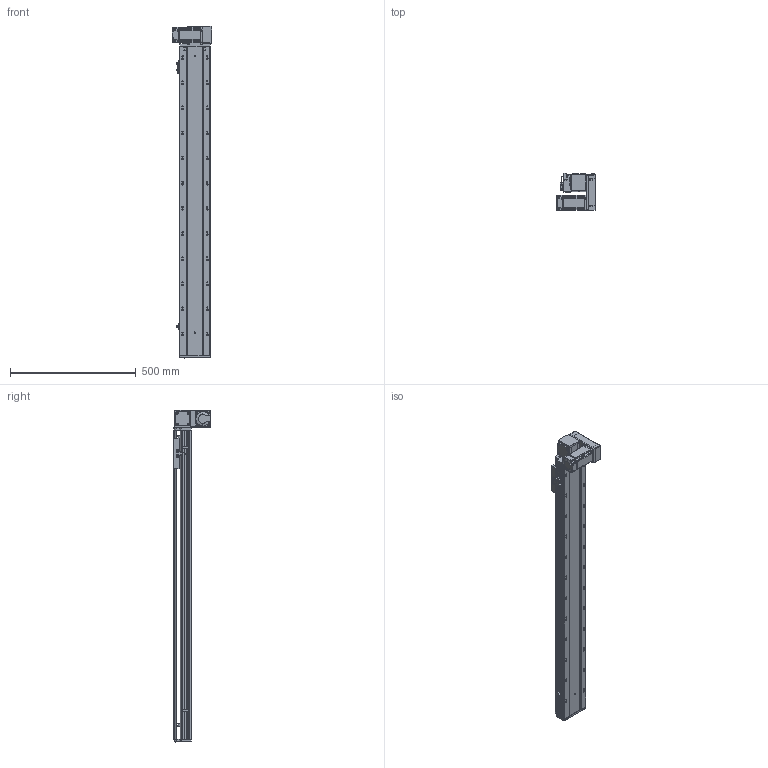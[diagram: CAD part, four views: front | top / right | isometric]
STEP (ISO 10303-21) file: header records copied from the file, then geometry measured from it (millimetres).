
FILE_DESCRIPTION (( 'STEP AP203' ), '1' );
FILE_NAME ('RY120-T-300-DR.SLDASM_1000.step', '2021-03-01T03:35:45', ( '盈信电脑' ), ( '东莞市道滘镇水果街19号' ), 'SwSTEP 2.0', 'SolidWorks 2012', '' );
FILE_SCHEMA (( 'CONFIG_CONTROL_DESIGN' ));
Length unit declared in the file: millimetre
Products named in the file (17): RY120-T-300-DR.SLDASM_1000; RY120-T萇儂欶; RY120-T蹟翐M4; RY120-T主同步轮轴承压盖; RY120-T萇儂假蚾啣; RY120-T翋肮祭謫裔啣; 滅袉蝶18-10; 15; RY120-T肮祭湍揤踡輸2; RY120-T肮祭湍揤踡輸1; RY120外置感应片(140共用）; RY120-T翋肮祭盓傅釱; RY120綴裔啣; RY120-T-300-DR倰第奻裔啣_1000; 覜茼ん672; RY120肮祭湍臏賑輸; RY120-T-300-DR倰第菁釱_1000
Assembly tree (22 placements, depth 2):
  RY120-T-300-DR.SLDASM_1000
    RY120-T-300-DR倰第菁釱_1000
    RY120-T-300-DR倰第奻裔啣_1000
    RY120肮祭湍臏賑輸
    RY120綴裔啣
    覜茼ん672  x3
    RY120外置感应片(140共用）
    RY120-T肮祭湍揤踡輸1
    RY120-T肮祭湍揤踡輸2
    RY120-T翋肮祭盓傅釱
    滅袉蝶18-10  x2
    RY120-T翋肮祭謫裔啣
    15
    RY120-T萇儂假蚾啣
    RY120-T蹟翐M4  x4
    RY120-T萇儂欶
    RY120-T主同步轮轴承压盖
Bounding box: 155.5 x 150 x 1321 mm (x, y, z)
Volume: 3608952.8 mm3; surface area: 1352624 mm2
Topology: 23 solids, 23 shells, 3022 faces, 8320 edges, 5350 vertices
Faces by surface type: plane 1462, cylinder 1212, cone 259, bspline 89
Entity records: 98587 total; most frequent: CARTESIAN_POINT 26408, ORIENTED_EDGE 15064, DIRECTION 13982, EDGE_CURVE 7532, VERTEX_POINT 4937, AXIS2_PLACEMENT_3D 4719, LINE 4544, VECTOR 4544
